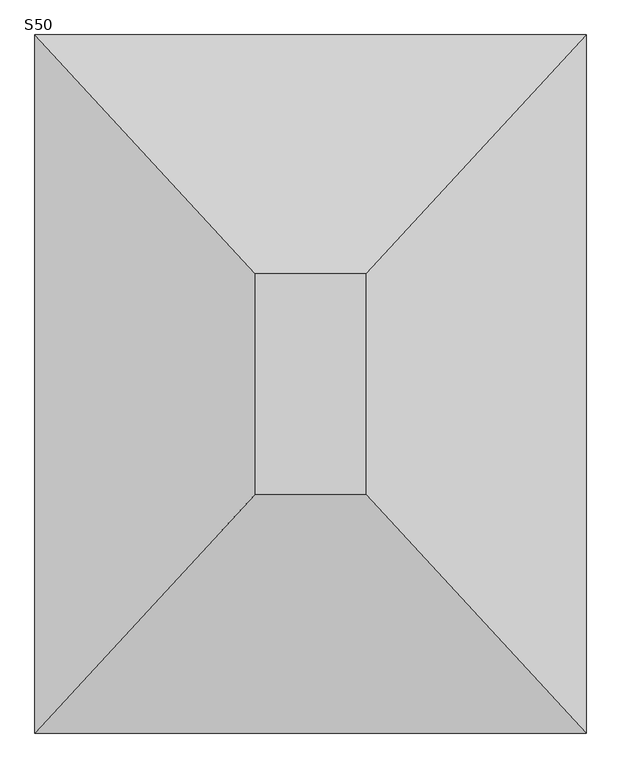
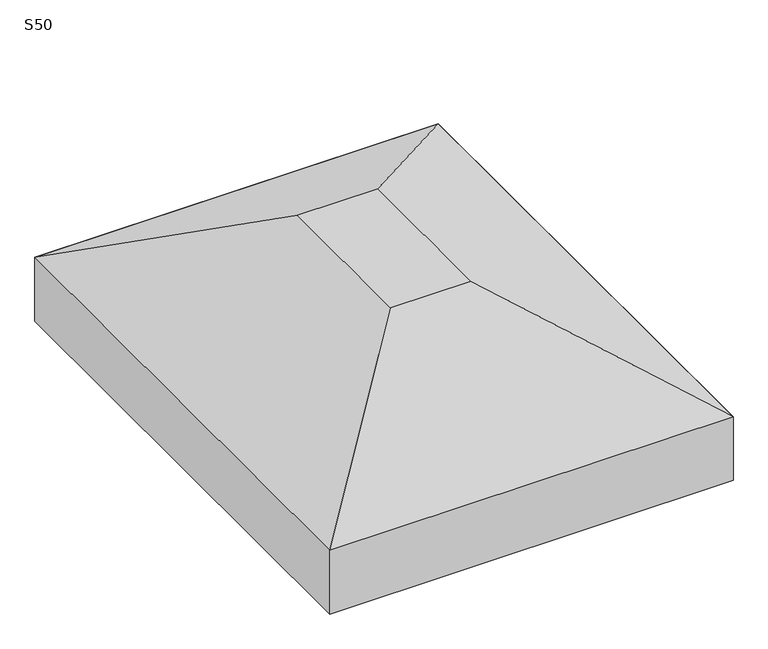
"""IFC4 building model written with IfcOpenShell, lengths in millimetres: fastener geometry, TQS - Sapata : S50."""

from ifc_helpers import new_model, si_unit, frame, origin, place, context, project, spatial, polyline, outline, extrude, faceted_brep, source, transform, mapped, element, save


def s50_1e73553d(model_context):
    return source(origin(), model_context, "Body", "SolidModel", [
        faceted_brep([(-50.0, 100.0, 0.0), (-350.0, 100.0, 0.0), (-350.0, -500.0, 0.0), (-50.0, -500.0, 0.0), (550.0, 750.0, -350.0), (550.0, -1150.0, -350.0), (-950.0, -1150.0, -350.0), (-950.0, 750.0, -350.0)], [[[0, 1, 2, 3]], [[4, 5, 6, 7]], [[4, 7, 1, 0]], [[7, 6, 2, 1]], [[6, 5, 3, 2]], [[5, 4, 0, 3]]]),
        extrude(outline(polyline([(550.0, 750.0), (550.0, -1150.0), (-950.0, -1150.0), (-950.0, 750.0), (550.0, 750.0)])), frame((0.0, 0.0, -600.0), z_axis=(0.0, 0.0, 1.0), x_axis=(1.0, 0.0, 0.0)), (0.0, 0.0, 1.0), 250.0),
    ])


if __name__ == "__main__":
    model = new_model("IFC4")
    model_context = context("Model", 3, world=origin())
    ifc_project = project(units=[si_unit("LENGTHUNIT", "METRE", prefix="MILLI")], contexts=[model_context])
    site = spatial("IfcSite", under=ifc_project)
    building = spatial("IfcBuilding", under=site)
    placement = place(None, origin())
    s50_shape = s50_1e73553d(model_context)
    element("IfcFastener", 1, ObjectType="TQS - Sapata : S50", at=placement, inside=building, context=model_context, shape_type="MappedRepresentation", body=[
        mapped(s50_shape, transform((0.0, 0.0, 0.0), x_axis=(1.0, 0.0, 0.0), y_axis=(0.0, 1.0, 0.0), z_axis=(0.0, 0.0, 1.0))),
    ])
    save(model, "model.ifc")
